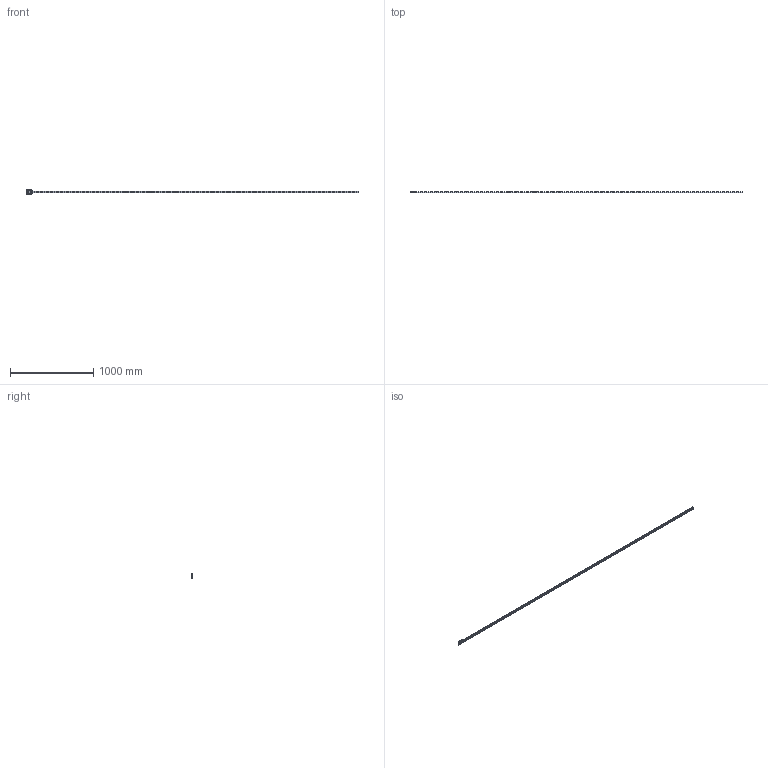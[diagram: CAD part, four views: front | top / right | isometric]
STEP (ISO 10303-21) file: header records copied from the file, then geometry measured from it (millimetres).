
FILE_DESCRIPTION( ( 'STEP AP203' ), '1' );
FILE_NAME( 'p:/temp/worker_13/temp/exporttempdir_1072_2031_IoYXB/format_0/FDG12 84495LN_4000-0-0.stp', '2021-04-27T06:38:18', ( 'License CC BY-ND 4.0' ), ( 'CADENAS' ), ' ', 'PARTsolutions', ' ' );
FILE_SCHEMA( ( 'CONFIG_CONTROL_DESIGN' ) );
Length unit declared in the file: millimetre
Products named in the file (5): FDG12 84495LN_4000-0-0; _FD_12R 4000-0-0; _FD_12R Rollenhalter_1; _FD_12R 4000-0-0_2; _FD_12R Rollenhalter_2
Assembly tree (4 placements, depth 2):
  FDG12 84495LN_4000-0-0
    _FD_12R 4000-0-0
    _FD_12R Rollenhalter_1
    _FD_12R 4000-0-0_2
    _FD_12R Rollenhalter_2
Bounding box: 4000 x 19 x 48.8 mm (x, y, z)
Volume: 1170957.6 mm3; surface area: 502370.7 mm2
Topology: 4 solids, 4 shells, 1046 faces, 2708 edges, 1864 vertices
Faces by surface type: plane 541, cylinder 492, cone 12, torus 1
Full cylindrical faces by diameter (mm): 2.1 x1, 2.459 x8, 3.242 x4, 3.4 x200, 6 x200, 8 x1
Entity records: 29386 total; most frequent: DIRECTION 5154, CARTESIAN_POINT 4817, ORIENTED_EDGE 4122, EDGE_LOOP 2073, EDGE_CURVE 2061, AXIS2_PLACEMENT_3D 2053, VERTEX_POINT 1650, FACE_OUTER_BOUND 1461
